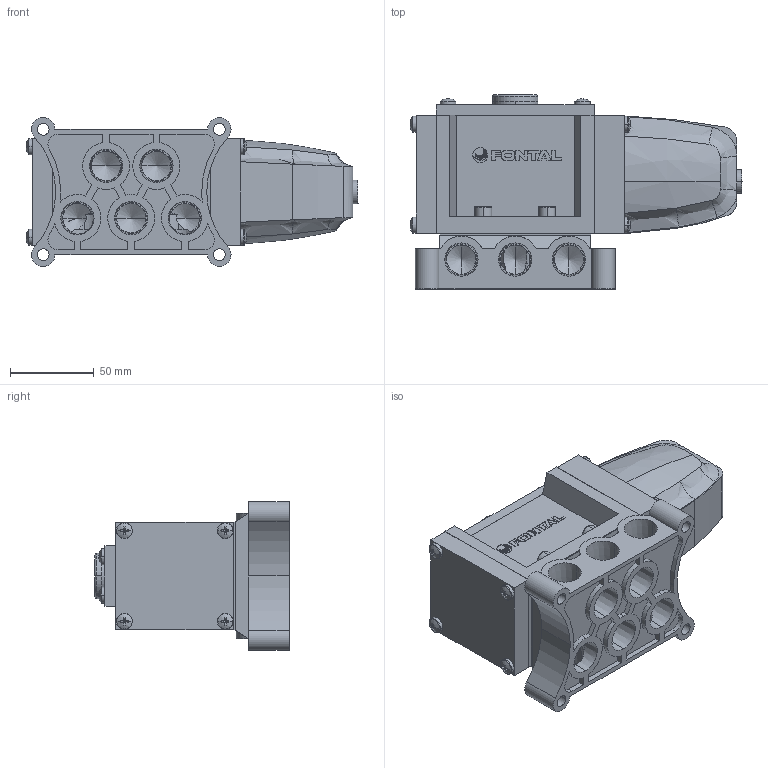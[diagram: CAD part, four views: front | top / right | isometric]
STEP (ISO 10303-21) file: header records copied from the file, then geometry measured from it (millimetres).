
FILE_DESCRIPTION (( 'STEP AP203' ), '1' );
FILE_NAME ('AS2410-04-##.STEP', '2016-03-09T05:03:15', ( 'Sam Lin' ), ( '' ), 'SwSTEP 2.0', 'SolidWorks 2013', '' );
FILE_SCHEMA (( 'CONFIG_CONTROL_DESIGN' ));
Length unit declared in the file: metre
Products named in the file (11): AS2410-04-##; ISO 7045 - M5 x 16; AS2410-2; AS2410-3; AS2410-4; ISO 4762 M6 x 16; AS2410-1; AS2410-5; A10-MARK; AS2410-6=04; AS2310-3
Assembly tree (24 placements, depth 2):
  AS2410-04-##
    AS2410-1
    A10-MARK
    AS2310-3
    ISO 7045 - M5 x 16  x12
    AS2410-2
    AS2410-3
    AS2410-4
    ISO 4762 M6 x 16  x4
    AS2410-5
    AS2410-6=04
Bounding box: 197.63 x 115.6 x 88.6 mm (x, y, z)
Volume: 822038.7 mm3; surface area: 152452.6 mm2
Topology: 30 solids, 30 shells, 905 faces, 2317 edges, 1455 vertices
Faces by surface type: plane 454, cylinder 210, cone 127, bspline 114
Entity records: 18100 total; most frequent: CARTESIAN_POINT 5458, ORIENTED_EDGE 2354, DIRECTION 2258, EDGE_CURVE 1177, AXIS2_PLACEMENT_3D 824, VERTEX_POINT 773, VECTOR 610, LINE 610
